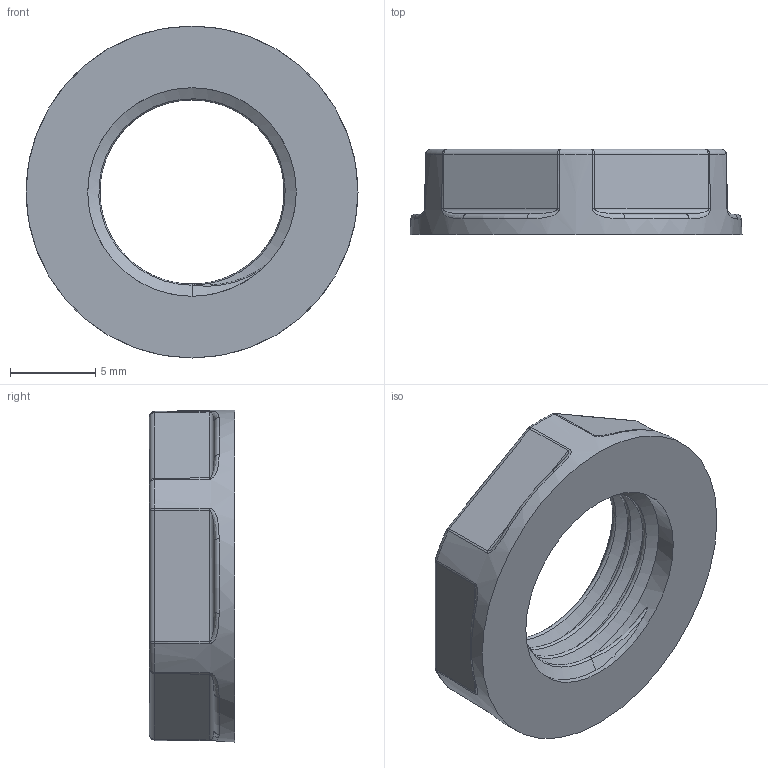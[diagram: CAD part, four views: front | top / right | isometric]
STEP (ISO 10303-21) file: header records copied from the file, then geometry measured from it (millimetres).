
FILE_DESCRIPTION (( 'STEP AP203' ), '1' );
FILE_NAME ('Ãàéêà ïðèæèìíàÿ (PG7-Ì12).STEP', '2020-08-06T09:25:23', ( '' ), ( '' ), 'SwSTEP 2.0', 'SolidWorks 2019', '' );
FILE_SCHEMA (( 'CONFIG_CONTROL_DESIGN' ));
Length unit declared in the file: millimetre
Products named in the file (1): Ãàéêà ïðèæèìíàÿ (PG7-Ì12)
Bounding box: 19.5 x 5 x 19.5 mm (x, y, z)
Volume: 843.5 mm3; surface area: 934.2 mm2
Topology: 1 solids, 1 shells, 85 faces, 198 edges, 103 vertices
Faces by surface type: bspline 30, cylinder 16, plane 14, torus 12, sphere 12, cone 1
Full cylindrical faces by diameter (mm): 12.25 x3
Entity records: 4212 total; most frequent: CARTESIAN_POINT 2560, ORIENTED_EDGE 348, DIRECTION 308, EDGE_CURVE 174, AXIS2_PLACEMENT_3D 141, VERTEX_POINT 96, CIRCLE 88, EDGE_LOOP 86
